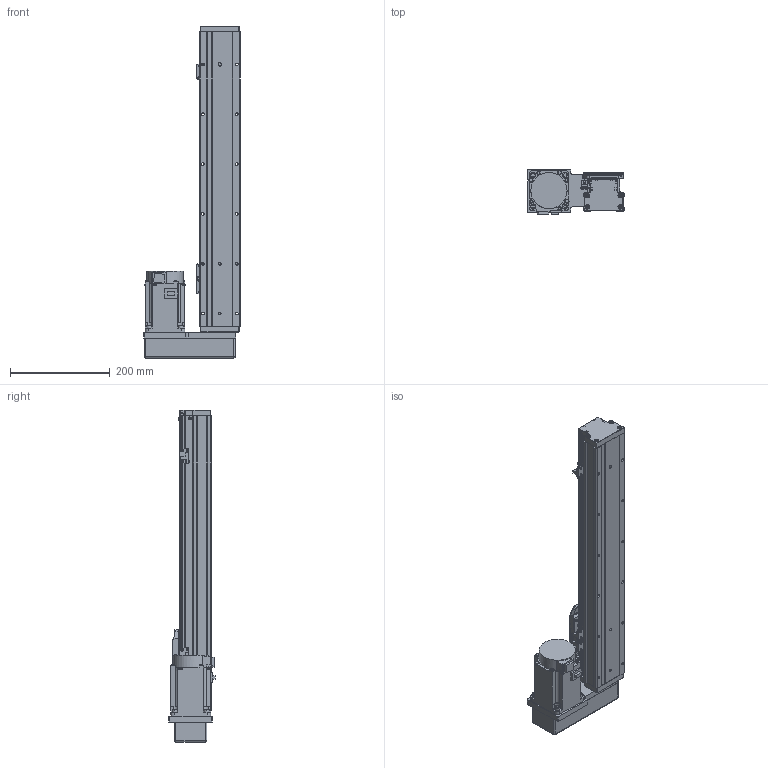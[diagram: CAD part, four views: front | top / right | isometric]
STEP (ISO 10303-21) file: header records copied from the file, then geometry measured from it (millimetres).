
FILE_DESCRIPTION (( 'STEP AP203' ), '1' );
FILE_NAME ('GTH8-400-BL-M75-C4.step', '2023-02-14T02:24:11', ( '微软用户' ), ( '微软中国' ), 'SwSTEP 2.0', 'SolidWorks 2020', '' );
FILE_SCHEMA (( 'CONFIG_CONTROL_DESIGN' ));
Length unit declared in the file: millimetre
Products named in the file (18): GTH80-028; hg-kn73j_-s100; GTH80-006; GTH50-024; GTH8-400-BL-M75-C4; GTH80-013; GTH50-023; GBT 70.3-M3℅6; GBT96.1-2002 3×0.8; GTH80-022; BTH-M3X5X6; GTH80-001_400; GBT 70.1-M3℅6; CTHA86-015-3_CTHA86-015-4; GTH80-003; GBT 70.1-M4×16; CTHA86-035; GTH80-004
Assembly tree (57 placements, depth 2):
  GTH8-400-BL-M75-C4
    GTH80-001_400
    GTH80-003
    GTH80-004
    GTH80-006
    GTH80-013
    GBT 70.3-M3℅6  x4
    GTH80-022
    GBT 70.1-M3℅6  x14
    GBT 70.1-M4×16  x8
    GTH80-028  x2
    GTH50-024  x3
    GTH50-023  x3
    GBT96.1-2002 3×0.8  x6
    BTH-M3X5X6  x8
    CTHA86-015-3_CTHA86-015-4
    CTHA86-035
    hg-kn73j_-s100
Bounding box: 193.5 x 92.3 x 666 mm (x, y, z)
Volume: 4102190.4 mm3; surface area: 438407.4 mm2
Topology: 59 solids, 59 shells, 2187 faces, 5070 edges, 3104 vertices
Faces by surface type: plane 1153, cylinder 619, cone 243, torus 158, sphere 12, bspline 2
Entity records: 39292 total; most frequent: CARTESIAN_POINT 6599, DIRECTION 6473, ORIENTED_EDGE 5950, EDGE_CURVE 2975, AXIS2_PLACEMENT_3D 2278, VECTOR 1917, LINE 1917, VERTEX_POINT 1879
